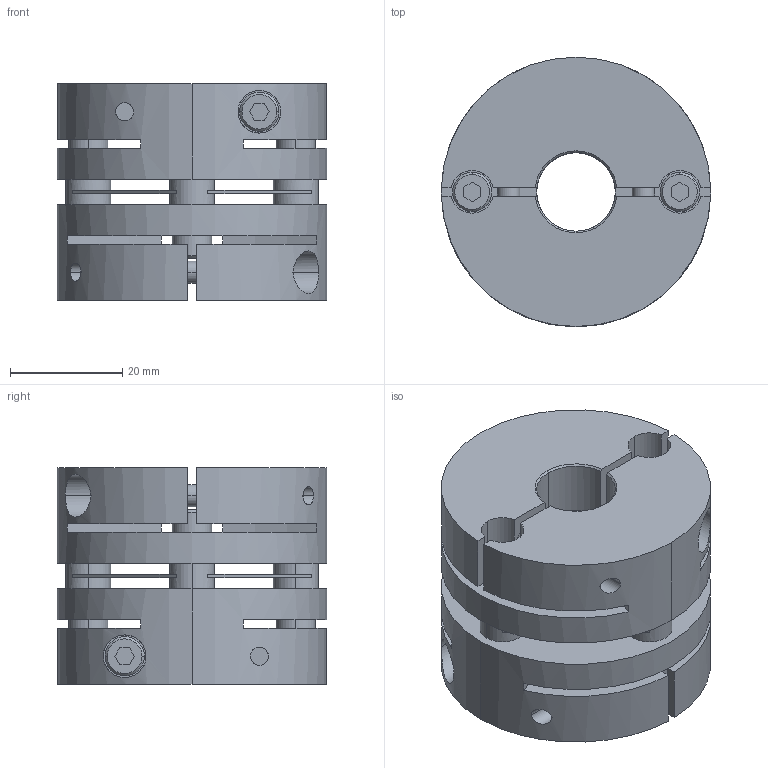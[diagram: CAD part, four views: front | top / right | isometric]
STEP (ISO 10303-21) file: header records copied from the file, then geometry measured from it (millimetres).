
FILE_DESCRIPTION((''),'2;1');
FILE_NAME('LAS-48C-14×14.stp','2013-06-12T09:37:01',(''),(''),'AutoCAD STEP 2000i','AutoCAD 2000i',', , ');
FILE_SCHEMA(('CONFIG_CONTROL_DESIGN'));
Length unit declared in the file: millimetre
Products named in the file (5): LAS-48C-12×12; 忣兜1; LA-4802-D12-1; LA-4802-D12; LAS48-ITA
Assembly tree (4 placements, depth 2):
  LAS-48C-12×12
    忣兜1
    LA-4802-D12-1
    LA-4802-D12
    LAS48-ITA
Bounding box: 48 x 48 x 38.6 mm (x, y, z)
Volume: 50481 mm3; surface area: 22593 mm2
Topology: 1 solids, 1 shells, 224 faces, 588 edges, 384 vertices
Faces by surface type: plane 112, cylinder 84, cone 28
Entity records: 7607 total; most frequent: CARTESIAN_POINT 1713, DIRECTION 1250, ORIENTED_EDGE 1176, EDGE_CURVE 588, AXIS2_PLACEMENT_3D 457, VERTEX_POINT 384, VECTOR 336, LINE 336
